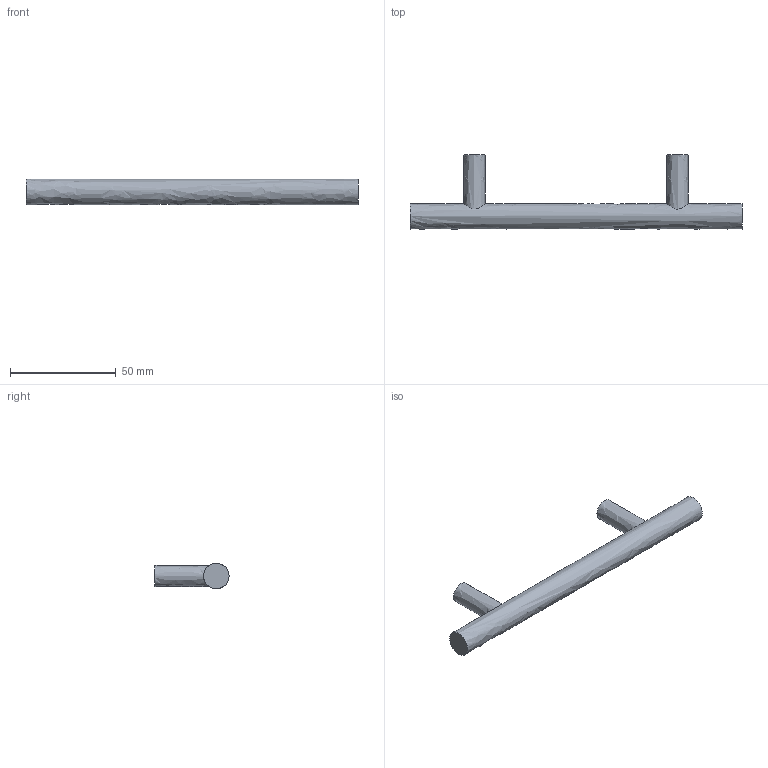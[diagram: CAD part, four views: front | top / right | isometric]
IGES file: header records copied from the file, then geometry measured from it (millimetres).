
Start section: Data from Parasolid IGES Translator 15.0.47, Copyright(c) 2006 Siemens P LM Software. All Rights Reserved.
Global section: file name: 9071003.igs; native system:  By UGS Corp.; preprocessor: XPlus GENERIC/IGES 3.0; author: Noname; organization: Noname; date: 20140122.181253; units: millimetre
Bounding box: 157 x 35 x 12 mm (x, y, z)
Surface area: 7950.3 mm2 (no closed solid volume)
Topology: 0 solids, 0 shells, 11 faces, 30 edges, 22 vertices
Faces by surface type: extrusion 6, revolution 5
